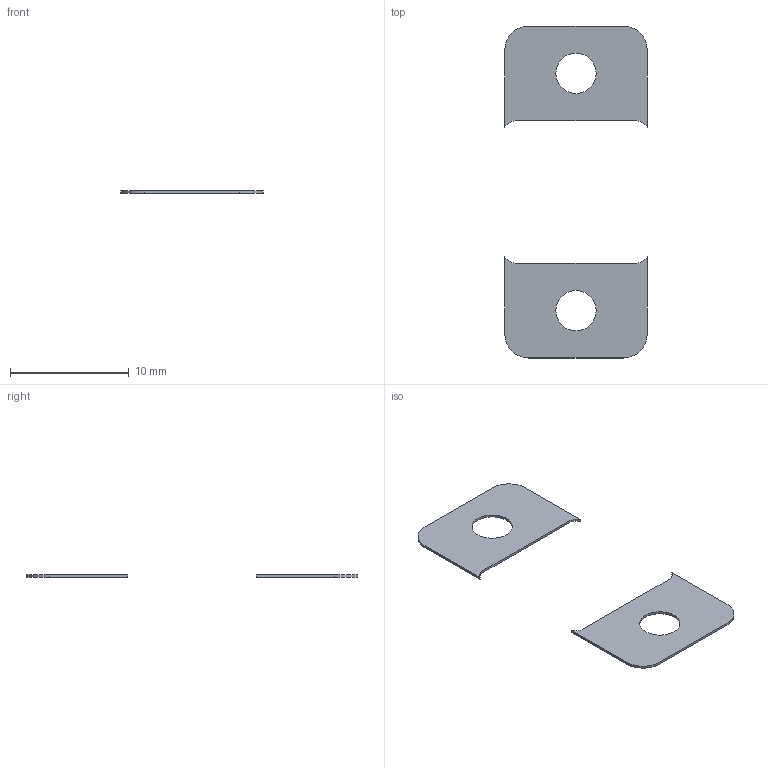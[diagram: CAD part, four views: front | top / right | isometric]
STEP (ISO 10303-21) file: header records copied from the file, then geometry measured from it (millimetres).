
FILE_DESCRIPTION(('FreeCAD Model'),'2;1');
FILE_NAME('Open CASCADE Shape Model','2026-09-29T21:45:30',('Author'),( ''),'Open CASCADE STEP processor 7.8','FreeCAD','Unknown');
FILE_SCHEMA(('AUTOMOTIVE_DESIGN { 1 0 10303 214 1 1 1 1 }'));
Length unit declared in the file: millimetre
Products named in the file (1): clamp_shims_0p2
Bounding box: 12 x 28 x 0.2 mm (x, y, z)
Volume: 34.2 mm3; surface area: 362.2 mm2
Topology: 2 solids, 2 shells, 22 faces, 54 edges, 36 vertices
Faces by surface type: plane 12, cylinder 10
Full cylindrical faces by diameter (mm): 3.4 x2
Entity records: 674 total; most frequent: DIRECTION 120, CARTESIAN_POINT 113, ORIENTED_EDGE 108, EDGE_CURVE 54, AXIS2_PLACEMENT_3D 43, VERTEX_POINT 36, LINE 34, VECTOR 34
